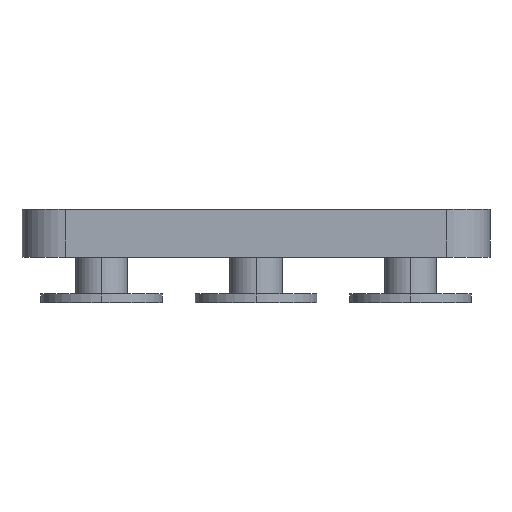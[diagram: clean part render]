
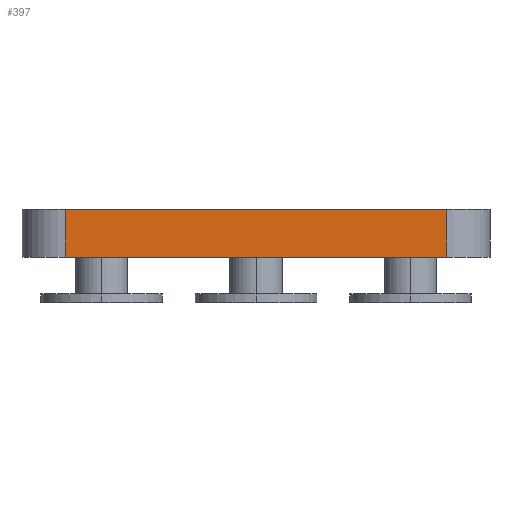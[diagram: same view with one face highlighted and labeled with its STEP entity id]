
A CAD part, left-side view. The second image highlights one B-rep face of the part: STEP entity #397.
In plain terms, the highlighted planar face has unit normal (-1, 0, 0).
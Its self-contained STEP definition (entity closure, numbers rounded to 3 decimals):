
#1 = CARTESIAN_POINT ( 'NONE',  ( -28.878, -21.125, -4.5 ) ) ;
#80 = VECTOR ( 'NONE', #232, 1000. ) ;
#84 = EDGE_CURVE ( 'NONE', #911, #648, #945, .T. ) ;
#109 = VERTEX_POINT ( 'NONE', #292 ) ;
#119 = CARTESIAN_POINT ( 'NONE',  ( -28.878, 0., -4.5 ) ) ;
#154 = CARTESIAN_POINT ( 'NONE',  ( -28.878, 22.675, -4.5 ) ) ;
#226 = PLANE ( 'NONE',  #244 ) ;
#232 = DIRECTION ( 'NONE',  ( 0., 0., 1. ) ) ;
#244 = AXIS2_PLACEMENT_3D ( 'NONE', #119, #553, #989 ) ;
#292 = CARTESIAN_POINT ( 'NONE',  ( -28.878, -21.125, 0. ) ) ;
#295 = EDGE_LOOP ( 'NONE', ( #795, #1014, #1046, #849 ) ) ;
#388 = DIRECTION ( 'NONE',  ( 0., -1., 0. ) ) ;
#397 = ADVANCED_FACE ( 'NONE', ( #768 ), #226, .T. ) ;
#403 = EDGE_CURVE ( 'NONE', #710, #911, #474, .T. ) ;
#423 = EDGE_CURVE ( 'NONE', #109, #648, #881, .T. ) ;
#446 = VECTOR ( 'NONE', #916, 1000. ) ;
#474 = LINE ( 'NONE', #154, #446 ) ;
#542 = CARTESIAN_POINT ( 'NONE',  ( -28.878, 22.675, 0. ) ) ;
#553 = DIRECTION ( 'NONE',  ( -1., 0., 0. ) ) ;
#564 = VECTOR ( 'NONE', #388, 1000. ) ;
#648 = VERTEX_POINT ( 'NONE', #902 ) ;
#663 = CARTESIAN_POINT ( 'NONE',  ( -28.878, 22.675, 5.5 ) ) ;
#710 = VERTEX_POINT ( 'NONE', #542 ) ;
#768 = FACE_OUTER_BOUND ( 'NONE', #295, .T. ) ;
#795 = ORIENTED_EDGE ( 'NONE', *, *, #933, .T. ) ;
#849 = ORIENTED_EDGE ( 'NONE', *, *, #403, .F. ) ;
#881 = LINE ( 'NONE', #1, #80 ) ;
#902 = CARTESIAN_POINT ( 'NONE',  ( -28.878, -21.125, 5.5 ) ) ;
#911 = VERTEX_POINT ( 'NONE', #663 ) ;
#916 = DIRECTION ( 'NONE',  ( 0., 0., 1. ) ) ;
#933 = EDGE_CURVE ( 'NONE', #710, #109, #1111, .T. ) ;
#940 = CARTESIAN_POINT ( 'NONE',  ( -28.878, 0., 5.5 ) ) ;
#945 = LINE ( 'NONE', #940, #564 ) ;
#989 = DIRECTION ( 'NONE',  ( 0., 0., 1. ) ) ;
#1014 = ORIENTED_EDGE ( 'NONE', *, *, #423, .T. ) ;
#1046 = ORIENTED_EDGE ( 'NONE', *, *, #84, .F. ) ;
#1111 = LINE ( 'NONE', #1337, #1167 ) ;
#1167 = VECTOR ( 'NONE', #1221, 1000. ) ;
#1221 = DIRECTION ( 'NONE',  ( 0., -1., 0. ) ) ;
#1337 = CARTESIAN_POINT ( 'NONE',  ( -28.878, 0., 0. ) ) ;
